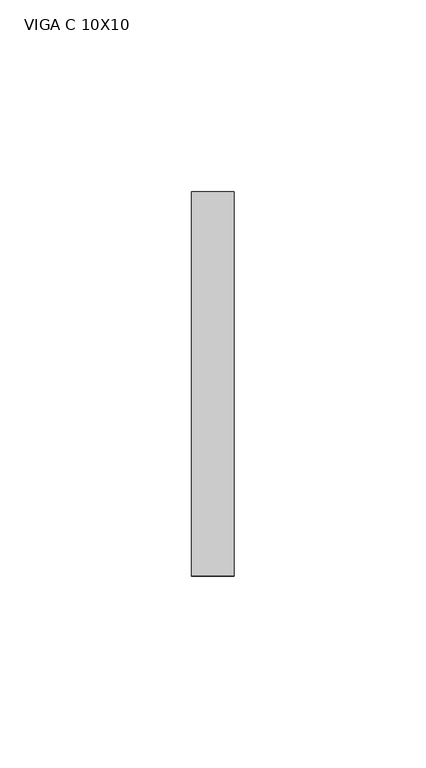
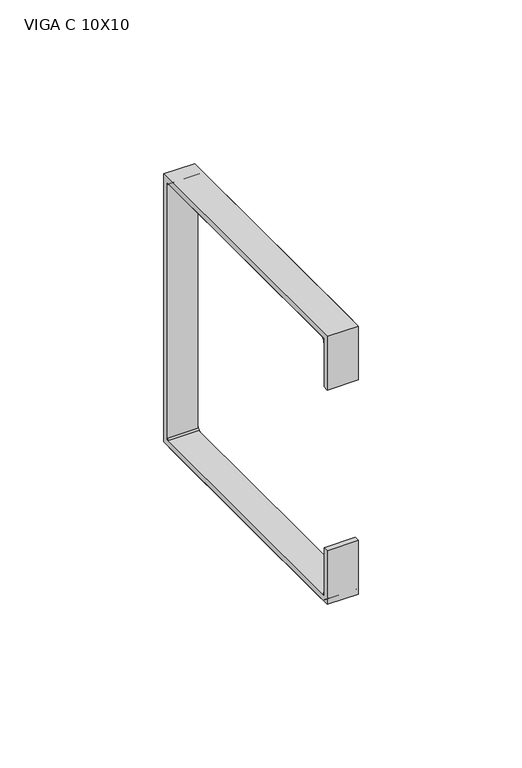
"""IFC4 building model written with IfcOpenShell, lengths in millimetres: beam geometry, VIGA PERFIL C AÇO : VIGA C 10X10."""

from ifc_helpers import new_model, si_unit, point, frame, frame_2d, origin, place, context, project, spatial, polyline, circle_curve, trimmed, segment, composite_curve, outline, extrude, source, transform, mapped, element, save


def viga_c_10x10_2f6019ce(model_context):
    return source(origin(), model_context, "Body", "SweptSolid", [
        extrude(outline(polyline([(9.2, -50.0), (-90.8, -50.0), (-90.8, -30.0), (-88.9, -30.0), (-88.9, -48.1), (7.3, -48.1), (7.3, 48.1), (-88.9, 48.1), (-88.9, 30.0), (-90.8, 30.0), (-90.8, 50.0), (9.2, 50.0), (9.2, -50.0)])), frame((29.5, 0.0, 0.0), z_axis=(1.0, 0.0, 0.0), x_axis=(0.0, 1.0, 0.0)), (0.0, 0.0, 1.0), 11.0),
        extrude(outline(composite_curve([segment(trimmed(circle_curve(frame_2d((5.4, -46.2)), 3.8), [point((9.2, -46.2))], [point((5.4, -50.0))], False, "CARTESIAN"), True, "CONTINUOUS"), segment(polyline([(5.4, -50.0), (-87.0, -50.0)]), True, "CONTINUOUS"), segment(trimmed(circle_curve(frame_2d((-87.0, -46.2)), 3.8), [point((-87.0, -50.0))], [point((-90.8, -46.2))], False, "CARTESIAN"), True, "CONTINUOUS"), segment(polyline([(-90.8, -46.2), (-90.8, -30.0), (-88.9, -30.0), (-88.9, -46.2)]), True, "CONTINUOUS"), segment(trimmed(circle_curve(frame_2d((-87.0, -46.2)), 1.9), [point((-88.9, -46.2))], [point((-87.0, -48.1))], True, "CARTESIAN"), True, "CONTINUOUS"), segment(polyline([(-87.0, -48.1), (5.4, -48.1)]), True, "CONTINUOUS"), segment(trimmed(circle_curve(frame_2d((5.4, -46.2)), 1.9), [point((5.4, -48.1))], [point((7.3, -46.2))], True, "CARTESIAN"), True, "CONTINUOUS"), segment(polyline([(7.3, -46.2), (7.3, 46.2)]), True, "CONTINUOUS"), segment(trimmed(circle_curve(frame_2d((5.4, 46.2)), 1.9), [point((7.3, 46.2))], [point((5.4, 48.1))], True, "CARTESIAN"), True, "CONTINUOUS"), segment(polyline([(5.4, 48.1), (-87.0, 48.1)]), True, "CONTINUOUS"), segment(trimmed(circle_curve(frame_2d((-87.0, 46.2)), 1.9), [point((-87.0, 48.1))], [point((-88.9, 46.2))], True, "CARTESIAN"), True, "CONTINUOUS"), segment(polyline([(-88.9, 46.2), (-88.9, 30.0), (-90.8, 30.0), (-90.8, 46.2)]), True, "CONTINUOUS"), segment(trimmed(circle_curve(frame_2d((-87.0, 46.2)), 3.8), [point((-90.8, 46.2))], [point((-87.0, 50.0))], False, "CARTESIAN"), True, "CONTINUOUS"), segment(polyline([(-87.0, 50.0), (5.4, 50.0)]), True, "CONTINUOUS"), segment(trimmed(circle_curve(frame_2d((5.4, 46.2)), 3.8), [point((5.4, 50.0))], [point((9.2, 46.2))], False, "CARTESIAN"), True, "CONTINUOUS"), segment(polyline([(9.2, 46.2), (9.2, -46.2)]), True, "CONTINUOUS")], self_intersect=False)), frame((29.5, 0.0, 0.0), z_axis=(1.0, 0.0, 0.0), x_axis=(0.0, 1.0, 0.0)), (0.0, 0.0, 1.0), 11.0),
    ])


if __name__ == "__main__":
    model = new_model("IFC4")
    model_context = context("Model", 3, world=origin())
    ifc_project = project(units=[si_unit("LENGTHUNIT", "METRE", prefix="MILLI")], contexts=[model_context])
    site = spatial("IfcSite", under=ifc_project)
    building = spatial("IfcBuilding", under=site)
    placement = place(None, origin())
    viga_c_10x10_shape = viga_c_10x10_2f6019ce(model_context)
    element("IfcBeam", 1, ObjectType="VIGA PERFIL C AÇO : VIGA C 10X10", at=placement, inside=building, context=model_context, shape_type="MappedRepresentation", body=[
        mapped(viga_c_10x10_shape, transform((0.0, 0.0, 0.0), x_axis=(1.0, 0.0, 0.0), y_axis=(0.0, 1.0, 0.0), z_axis=(0.0, 0.0, 1.0))),
    ])
    save(model, "model.ifc")
